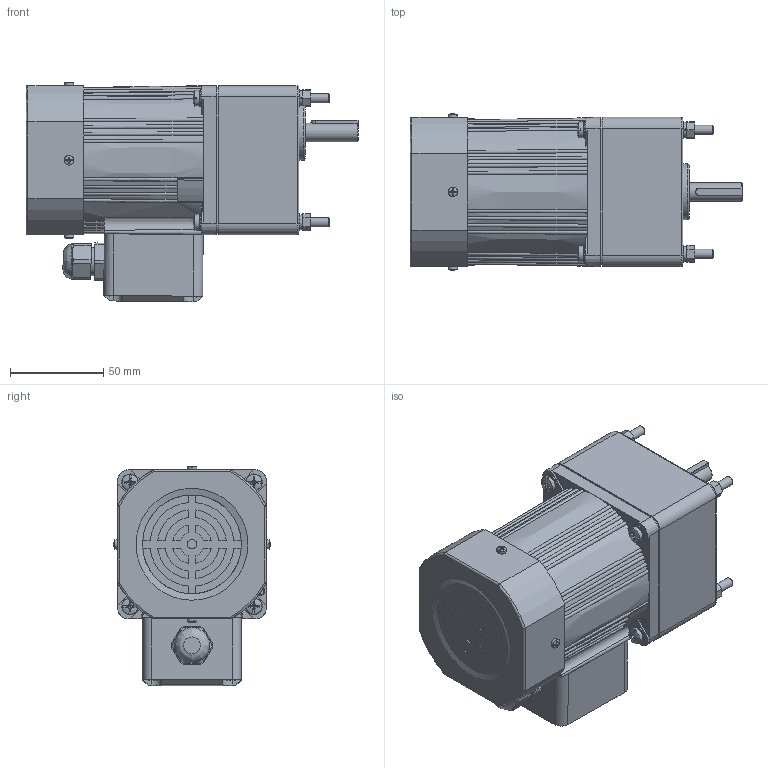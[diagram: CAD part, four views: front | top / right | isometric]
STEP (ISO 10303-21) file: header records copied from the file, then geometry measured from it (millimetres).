
FILE_DESCRIPTION(/* description */ (''),/* implementation_level */ '2;1');
FILE_NAME(/* name */ '4RK25-30GNC·F-4GN25-750K-C·10T常规接线盒.stp',/* time_stamp */ '2025-04-13T14:28:32+08:00',/* author */ (''),/* organization */ (''),/* preprocessor_version */ 'ST-DEVELOPER v18.102',/* originating_system */ 'SIEMENS PLM Software NX 2027',/* authorisation */ '');
FILE_SCHEMA (('AP203_CONFIGURATION_CONTROLLED_3D_DESIGN_OF_MECHANICAL_PARTS_AND_ASSEMBLIES_MIM_LF { 1 0 10303 403 2 1 2}'));
Length unit declared in the file: millimetre
Products named in the file (1): 4RK25-30CC·F-4GN25-750K-C·10T_stp_objects
Bounding box: 178 x 83.8 x 117.79 mm (x, y, z)
Volume: 850053 mm3; surface area: 117329.1 mm2
Topology: 21 solids, 21 shells, 1115 faces, 2941 edges, 1900 vertices
Faces by surface type: plane 413, bspline 290, cylinder 215, cone 128, torus 49, sphere 20
Full cylindrical faces by diameter (mm): 4 x1, 4.351 x4, 4.4 x1, 4.5 x4, 4.6 x4, 5 x6, 5.1 x4, 5.3 x8, 5.849 x1, 6 x8, 6.5 x4, 8.5 x4, 9 x9, 10 x1, 10.5 x1, 12 x1, 15 x2, 16 x1, 18 x1, 19 x2, 26 x1, 30 x1, 56 x1, 67 x1, 73 x1, 75 x2, 77.5 x1
Entity records: 41147 total; most frequent: CARTESIAN_POINT 16967, ORIENTED_EDGE 5502, DIRECTION 3743, EDGE_CURVE 2751, VERTEX_POINT 1840, AXIS2_PLACEMENT_3D 1483, EDGE_LOOP 1389, B_SPLINE_CURVE_WITH_KNOTS 1315
